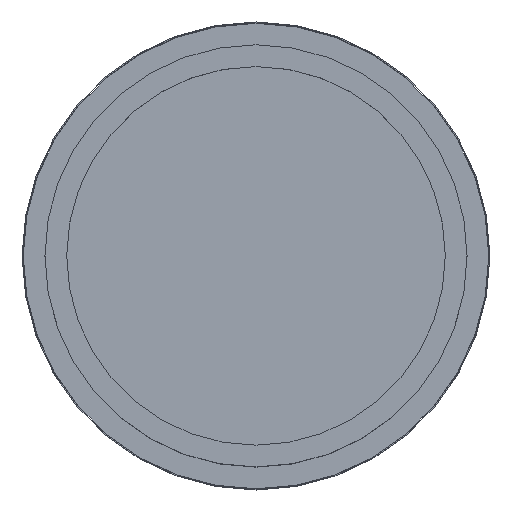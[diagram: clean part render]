
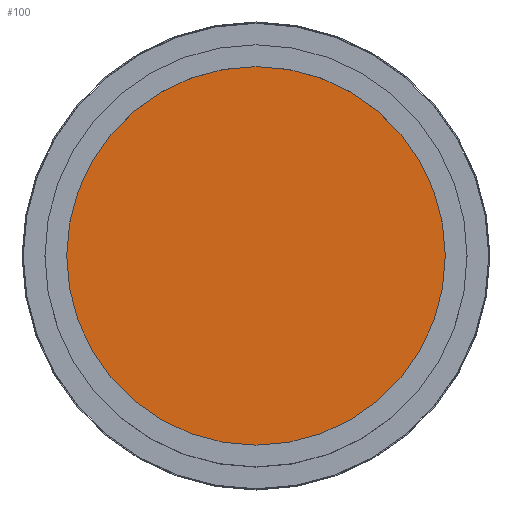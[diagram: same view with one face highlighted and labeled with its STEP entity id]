
A CAD part, top view. The second image highlights one B-rep face of the part: STEP entity #100.
In plain terms, the highlighted planar face has unit normal (0, 0, 1).
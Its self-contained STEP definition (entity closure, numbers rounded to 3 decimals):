
#67 = ORIENTED_EDGE ( 'NONE', *, *, #223, .T. ) ;
#69 = ORIENTED_EDGE ( 'NONE', *, *, #308, .T. ) ;
#100 = ADVANCED_FACE ( 'NONE', ( #471 ), #556, .F. ) ;
#109 = VERTEX_POINT ( 'NONE', #695 ) ;
#176 = CARTESIAN_POINT ( 'NONE',  ( 174., 0., 60. ) ) ;
#223 = EDGE_CURVE ( 'NONE', #822, #109, #731, .T. ) ;
#248 = AXIS2_PLACEMENT_3D ( 'NONE', #456, #453, #450 ) ;
#273 = AXIS2_PLACEMENT_3D ( 'NONE', #507, #476, #460 ) ;
#298 = AXIS2_PLACEMENT_3D ( 'NONE', #637, #712, #691 ) ;
#308 = EDGE_CURVE ( 'NONE', #109, #822, #767, .T. ) ;
#450 = DIRECTION ( 'NONE',  ( 1., 0., 0. ) ) ;
#453 = DIRECTION ( 'NONE',  ( 0., 0., 1. ) ) ;
#456 = CARTESIAN_POINT ( 'NONE',  ( 0., 0., 60. ) ) ;
#460 = DIRECTION ( 'NONE',  ( 1., 0., 0. ) ) ;
#471 = FACE_OUTER_BOUND ( 'NONE', #808, .T. ) ;
#476 = DIRECTION ( 'NONE',  ( 0., 0., 1. ) ) ;
#507 = CARTESIAN_POINT ( 'NONE',  ( 0., 0., 60. ) ) ;
#556 = PLANE ( 'NONE',  #298 ) ;
#637 = CARTESIAN_POINT ( 'NONE',  ( 0., 0., 60. ) ) ;
#691 = DIRECTION ( 'NONE',  ( -1., 0., 0. ) ) ;
#695 = CARTESIAN_POINT ( 'NONE',  ( -174., 0., 60. ) ) ;
#712 = DIRECTION ( 'NONE',  ( 0., 0., -1. ) ) ;
#731 = CIRCLE ( 'NONE', #273, 174. ) ;
#767 = CIRCLE ( 'NONE', #248, 174. ) ;
#808 = EDGE_LOOP ( 'NONE', ( #69, #67 ) ) ;
#822 = VERTEX_POINT ( 'NONE', #176 ) ;
